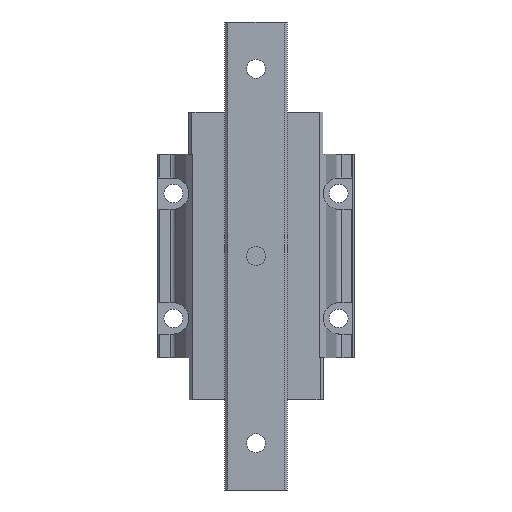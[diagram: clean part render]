
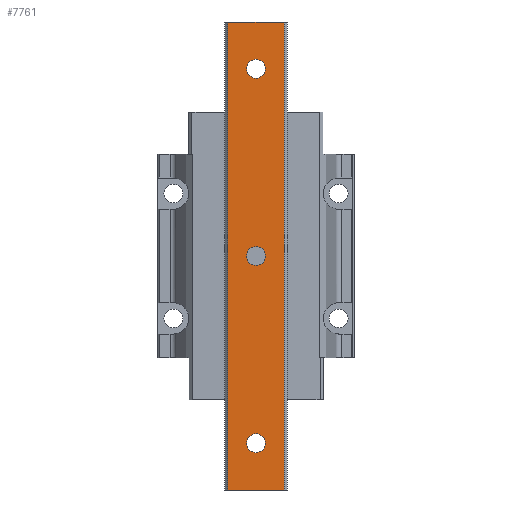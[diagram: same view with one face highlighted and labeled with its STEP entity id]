
A CAD part, front view. The second image highlights one B-rep face of the part: STEP entity #7761.
In plain terms, the highlighted planar face has unit normal (0, -1, 0).
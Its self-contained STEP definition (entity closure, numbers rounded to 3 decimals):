
#6685=DIRECTION('',(-1.,0.,0.));
#6686=VECTOR('',#6685,18.);
#6687=CARTESIAN_POINT('',(9.,-17.5,-75.));
#6688=LINE('',#6687,#6686);
#6689=DIRECTION('',(0.,0.,-1.));
#6690=VECTOR('',#6689,150.);
#6691=CARTESIAN_POINT('',(9.,-17.5,75.));
#6692=LINE('',#6691,#6690);
#6693=CARTESIAN_POINT('',(0.,-17.5,0.));
#6694=DIRECTION('',(0.,-1.,0.));
#6695=DIRECTION('',(1.,0.,0.));
#6696=AXIS2_PLACEMENT_3D('',#6693,#6694,#6695);
#6698=CARTESIAN_POINT('',(0.,-17.5,0.));
#6699=DIRECTION('',(0.,-1.,0.));
#6700=DIRECTION('',(-1.,0.,0.));
#6701=AXIS2_PLACEMENT_3D('',#6698,#6699,#6700);
#6703=CARTESIAN_POINT('',(0.,-17.5,60.));
#6704=DIRECTION('',(0.,-1.,0.));
#6705=DIRECTION('',(1.,0.,0.));
#6706=AXIS2_PLACEMENT_3D('',#6703,#6704,#6705);
#6708=CARTESIAN_POINT('',(0.,-17.5,60.));
#6709=DIRECTION('',(0.,-1.,0.));
#6710=DIRECTION('',(-1.,0.,0.));
#6711=AXIS2_PLACEMENT_3D('',#6708,#6709,#6710);
#6713=CARTESIAN_POINT('',(0.,-17.5,-60.));
#6714=DIRECTION('',(0.,-1.,0.));
#6715=DIRECTION('',(1.,0.,0.));
#6716=AXIS2_PLACEMENT_3D('',#6713,#6714,#6715);
#6718=CARTESIAN_POINT('',(0.,-17.5,-60.));
#6719=DIRECTION('',(0.,-1.,0.));
#6720=DIRECTION('',(-1.,0.,0.));
#6721=AXIS2_PLACEMENT_3D('',#6718,#6719,#6720);
#6723=DIRECTION('',(0.,0.,-1.));
#6724=VECTOR('',#6723,150.);
#6725=CARTESIAN_POINT('',(-9.,-17.5,75.));
#6726=LINE('',#6725,#6724);
#6944=DIRECTION('',(-1.,0.,0.));
#6945=VECTOR('',#6944,18.);
#6946=CARTESIAN_POINT('',(9.,-17.5,75.));
#6947=LINE('',#6946,#6945);
#7201=CARTESIAN_POINT('',(-9.,-17.5,-75.));
#7202=VERTEX_POINT('',#7201);
#7203=CARTESIAN_POINT('',(9.,-17.5,-75.));
#7204=VERTEX_POINT('',#7203);
#7277=CARTESIAN_POINT('',(9.,-17.5,75.));
#7278=VERTEX_POINT('',#7277);
#7279=CARTESIAN_POINT('',(-9.,-17.5,75.));
#7280=VERTEX_POINT('',#7279);
#7281=CARTESIAN_POINT('',(3.,-17.5,0.));
#7282=CARTESIAN_POINT('',(-3.,-17.5,0.));
#7283=VERTEX_POINT('',#7281);
#7284=VERTEX_POINT('',#7282);
#7285=CARTESIAN_POINT('',(3.,-17.5,60.));
#7286=CARTESIAN_POINT('',(-3.,-17.5,60.));
#7287=VERTEX_POINT('',#7285);
#7288=VERTEX_POINT('',#7286);
#7289=CARTESIAN_POINT('',(3.,-17.5,-60.));
#7290=CARTESIAN_POINT('',(-3.,-17.5,-60.));
#7291=VERTEX_POINT('',#7289);
#7292=VERTEX_POINT('',#7290);
#7730=CARTESIAN_POINT('',(-9.,-17.5,-75.));
#7731=DIRECTION('',(0.,-1.,0.));
#7732=DIRECTION('',(1.,0.,0.));
#7733=AXIS2_PLACEMENT_3D('',#7730,#7731,#7732);
#7734=PLANE('',#7733);
#7735=ORIENTED_EDGE('',*,*,#7422,.T.);
#7737=ORIENTED_EDGE('',*,*,#7736,.F.);
#7739=ORIENTED_EDGE('',*,*,#7738,.F.);
#7740=ORIENTED_EDGE('',*,*,#7722,.T.);
#7741=EDGE_LOOP('',(#7735,#7737,#7739,#7740));
#7742=FACE_OUTER_BOUND('',#7741,.F.);
#7744=ORIENTED_EDGE('',*,*,#7743,.T.);
#7746=ORIENTED_EDGE('',*,*,#7745,.T.);
#7747=EDGE_LOOP('',(#7744,#7746));
#7748=FACE_BOUND('',#7747,.F.);
#7750=ORIENTED_EDGE('',*,*,#7749,.T.);
#7752=ORIENTED_EDGE('',*,*,#7751,.T.);
#7753=EDGE_LOOP('',(#7750,#7752));
#7754=FACE_BOUND('',#7753,.F.);
#7756=ORIENTED_EDGE('',*,*,#7755,.T.);
#7758=ORIENTED_EDGE('',*,*,#7757,.T.);
#7759=EDGE_LOOP('',(#7756,#7758));
#7760=FACE_BOUND('',#7759,.F.);
#7761=ADVANCED_FACE('',(#7742,#7748,#7754,#7760),#7734,.T.);
#6697=CIRCLE('',#6696,3.);
#6702=CIRCLE('',#6701,3.);
#6707=CIRCLE('',#6706,3.);
#6712=CIRCLE('',#6711,3.);
#6717=CIRCLE('',#6716,3.);
#6722=CIRCLE('',#6721,3.);
#7422=EDGE_CURVE('',#7204,#7202,#6688,.T.);
#7722=EDGE_CURVE('',#7278,#7204,#6692,.T.);
#7736=EDGE_CURVE('',#7280,#7202,#6726,.T.);
#7738=EDGE_CURVE('',#7278,#7280,#6947,.T.);
#7743=EDGE_CURVE('',#7283,#7284,#6697,.T.);
#7745=EDGE_CURVE('',#7284,#7283,#6702,.T.);
#7749=EDGE_CURVE('',#7287,#7288,#6707,.T.);
#7751=EDGE_CURVE('',#7288,#7287,#6712,.T.);
#7755=EDGE_CURVE('',#7291,#7292,#6717,.T.);
#7757=EDGE_CURVE('',#7292,#7291,#6722,.T.);
